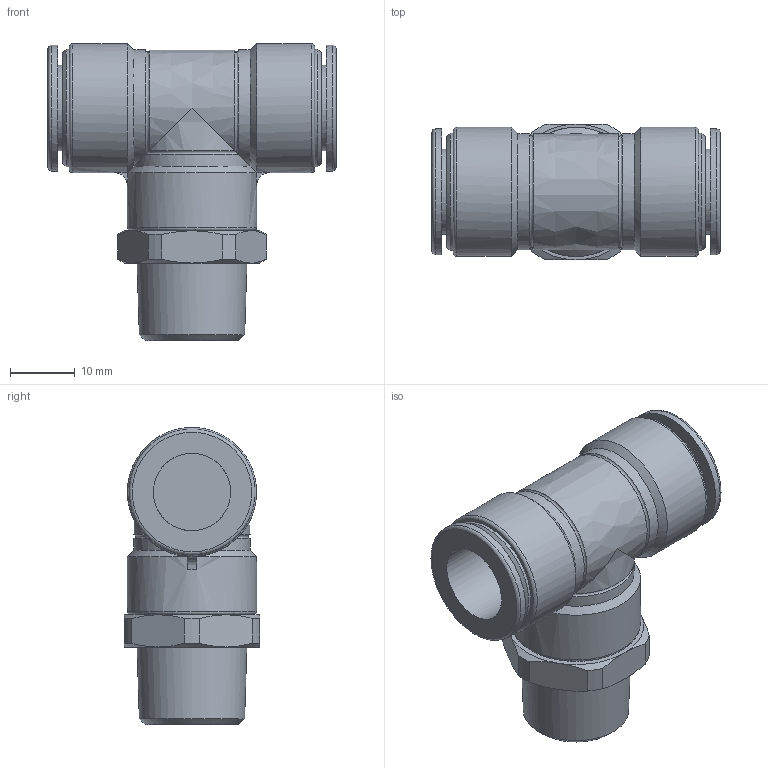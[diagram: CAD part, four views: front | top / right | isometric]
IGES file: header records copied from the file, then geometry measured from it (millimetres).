
Global section: file name: [16] FS12-03MT FS12-03MTW; native system: Autodesk Inventor 2014; preprocessor: unknown; author: kazuhiro.t; date: 20130806.165154; units: millimetre
Bounding box: 44.6 x 21 x 46 mm (x, y, z)
Volume: 16844.9 mm3; surface area: 6972.1 mm2
Topology: 1 solids, 1 shells, 86 faces, 202 edges, 128 vertices
Faces by surface type: bspline 86
